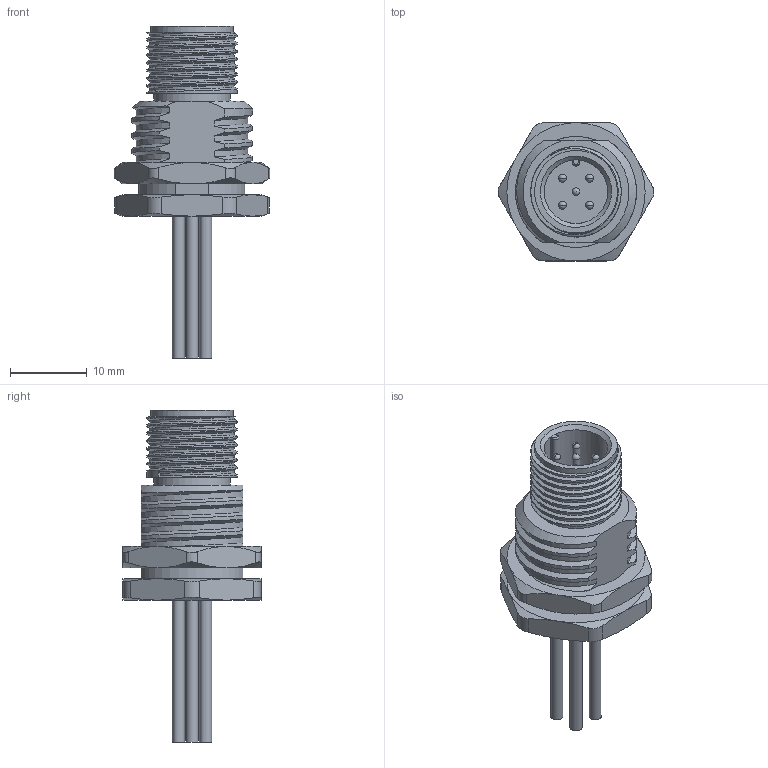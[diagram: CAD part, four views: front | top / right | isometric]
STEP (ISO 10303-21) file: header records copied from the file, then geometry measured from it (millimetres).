
FILE_DESCRIPTION(/* description */ (''),/* implementation_level */ '2;1');
FILE_NAME(/* name */ 'FL-M12-5MB-L.stp',/* time_stamp */ '2022-06-13T09:12:34+08:00',/* author */ (''),/* organization */ (''),/* preprocessor_version */ 'ST-DEVELOPER v16.7',/* originating_system */ 'SIEMENS PLM Software NX 12.0',/* authorisation */ '');
FILE_SCHEMA (('AP203_CONFIGURATION_CONTROLLED_3D_DESIGN_OF_MECHANICAL_PARTS_AND_ASSEMBLIES_MIM_LF { 1 0 10303 403 2 1 2}'));
Length unit declared in the file: millimetre
Products named in the file (1): Admi58BC97C9e5s1
Bounding box: 20.32 x 18 x 43.3 mm (x, y, z)
Volume: 3698.7 mm3; surface area: 3741 mm2
Topology: 1 solids, 17 shells, 303 faces, 769 edges, 499 vertices
Faces by surface type: cylinder 129, plane 83, cone 47, bspline 30, sphere 9, torus 5
Full cylindrical faces by diameter (mm): 1 x1, 1.6 x5, 2.1 x15, 9.4 x1, 9.8 x1, 10 x1, 10.8 x1, 11 x1
Entity records: 17696 total; most frequent: CARTESIAN_POINT 10770, ORIENTED_EDGE 1426, DIRECTION 1326, EDGE_CURVE 713, AXIS2_PLACEMENT_3D 553, VERTEX_POINT 479, EDGE_LOOP 380, ADVANCED_FACE 303
